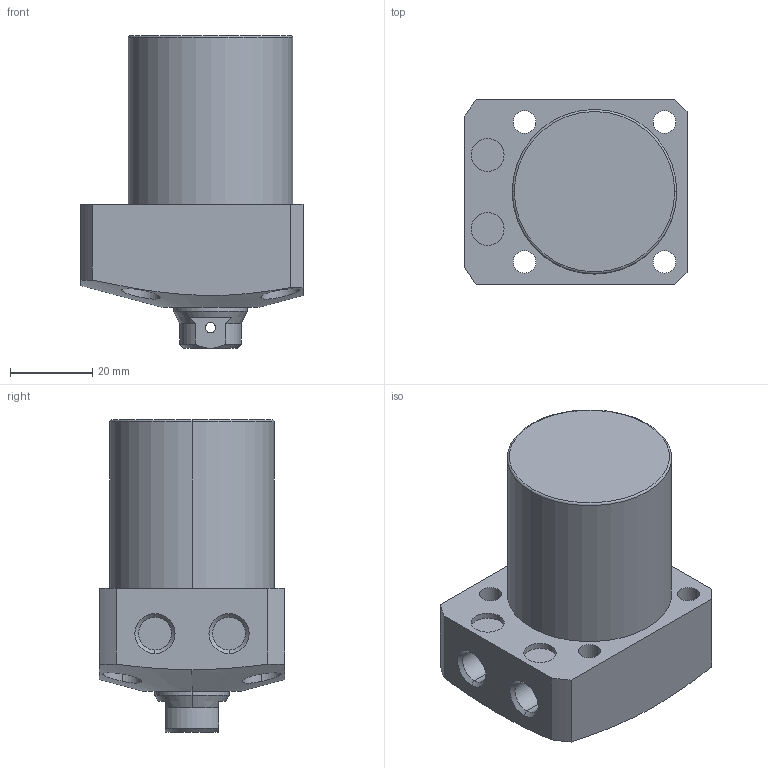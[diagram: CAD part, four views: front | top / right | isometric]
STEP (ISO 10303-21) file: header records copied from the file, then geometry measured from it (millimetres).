
FILE_DESCRIPTION (( 'STEP AP203' ), '1' );
FILE_NAME ('CLL-0400-CB-30.STEP', '2017-05-09T05:46:47', ( '' ), ( '' ), 'SwSTEP 2.0', 'SolidWorks 2015', '' );
FILE_SCHEMA (( 'CONFIG_CONTROL_DESIGN' ));
Length unit declared in the file: millimetre
Products named in the file (1): CLL-0400-CB-30
Bounding box: 54 x 45 x 76 mm (x, y, z)
Volume: 102938.2 mm3; surface area: 17080.6 mm2
Topology: 1 solids, 1 shells, 78 faces, 182 edges, 115 vertices
Faces by surface type: cylinder 39, plane 22, cone 15, torus 2
Entity records: 2728 total; most frequent: CARTESIAN_POINT 829, DIRECTION 394, ORIENTED_EDGE 360, EDGE_CURVE 180, AXIS2_PLACEMENT_3D 163, VERTEX_POINT 115, EDGE_LOOP 101, CIRCLE 84
